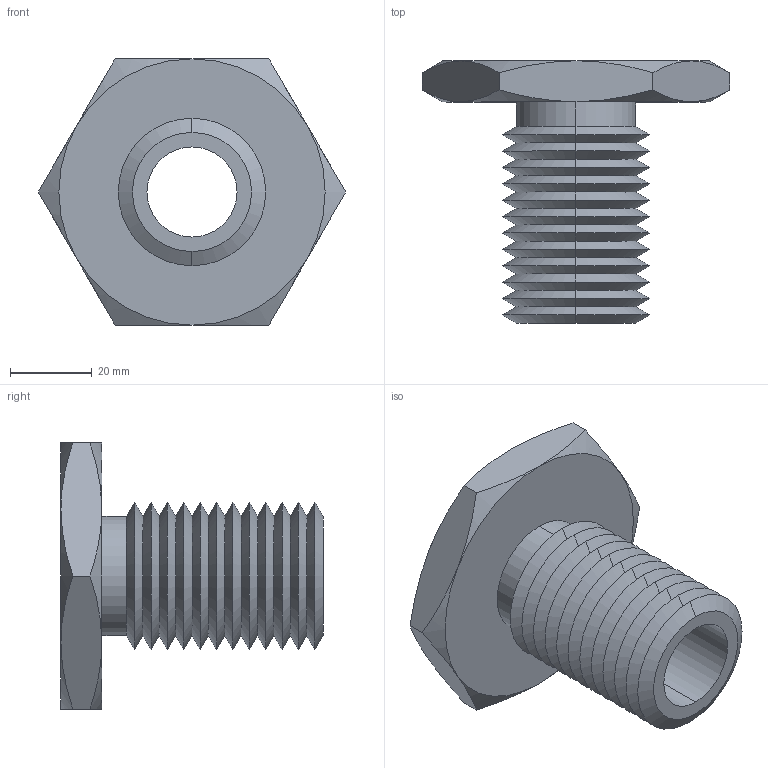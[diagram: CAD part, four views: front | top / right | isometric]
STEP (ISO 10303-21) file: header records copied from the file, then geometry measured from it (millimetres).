
FILE_DESCRIPTION (( 'STEP AP203' ), '1' );
FILE_NAME ('63302.W0036_M22x2,5.step', '2013-12-08T11:10:19', ( 'User' ), ( '' ), 'SwSTEP 2.0', 'SolidWorks 2009', '' );
FILE_SCHEMA (( 'CONFIG_CONTROL_DESIGN' ));
Length unit declared in the file: millimetre
Products named in the file (1): 63302.W0036_M22x2,5
Bounding box: 75.06 x 64 x 65 mm (x, y, z)
Volume: 55473.4 mm3; surface area: 23157.2 mm2
Topology: 1 solids, 1 shells, 75 faces, 154 edges, 82 vertices
Faces by surface type: cone 62, plane 9, cylinder 4
Entity records: 2139 total; most frequent: CARTESIAN_POINT 496, DIRECTION 352, ORIENTED_EDGE 308, EDGE_CURVE 154, AXIS2_PLACEMENT_3D 146, VERTEX_POINT 82, EDGE_LOOP 78, ADVANCED_FACE 75
